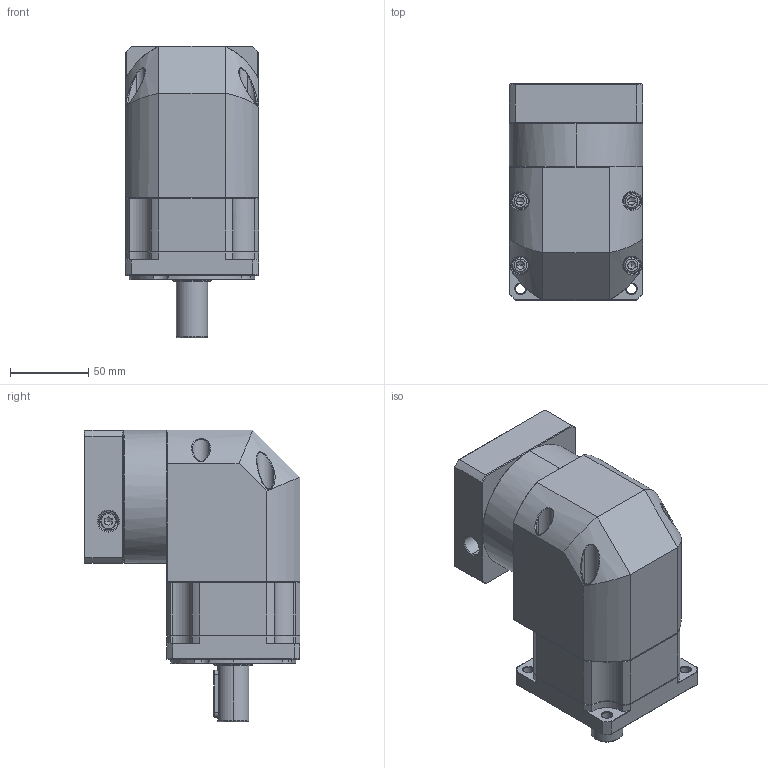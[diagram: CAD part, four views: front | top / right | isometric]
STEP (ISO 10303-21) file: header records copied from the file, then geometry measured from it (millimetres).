
FILE_DESCRIPTION (( 'STEP AP214' ), '1' );
FILE_NAME ('ZBR090-D20-L1-P2-16-80-100-M6.step', '2023-08-19T02:01:37', ( '' ), ( '' ), 'SwSTEP 2.0', 'SolidWorks 2016', '' );
FILE_SCHEMA (( 'AUTOMOTIVE_DESIGN' ));
Length unit declared in the file: millimetre
Products named in the file (1): ZBR090-D20-L1-P2-16-80-100-M6
Bounding box: 85 x 137.6 x 186 mm (x, y, z)
Volume: 1184788 mm3; surface area: 129930.4 mm2
Topology: 5 solids, 5 shells, 2406 faces, 6280 edges, 3968 vertices
Faces by surface type: plane 1155, cylinder 449, bspline 421, cone 355, torus 26
Entity records: 129508 total; most frequent: CARTESIAN_POINT 47621, ORIENTED_EDGE 12484, DIRECTION 9937, EDGE_CURVE 6242, VERTEX_POINT 3968, VECTOR 3959, LINE 3959, AXIS2_PLACEMENT_3D 2989
